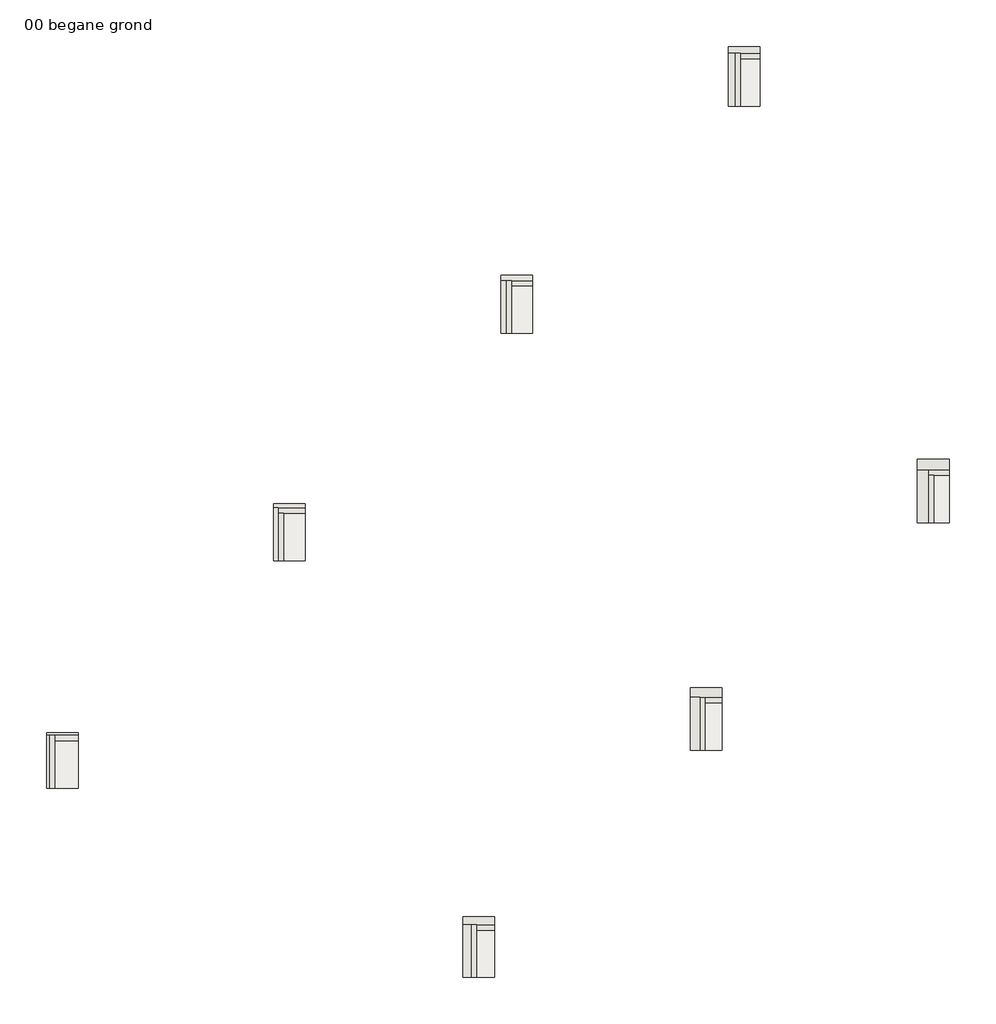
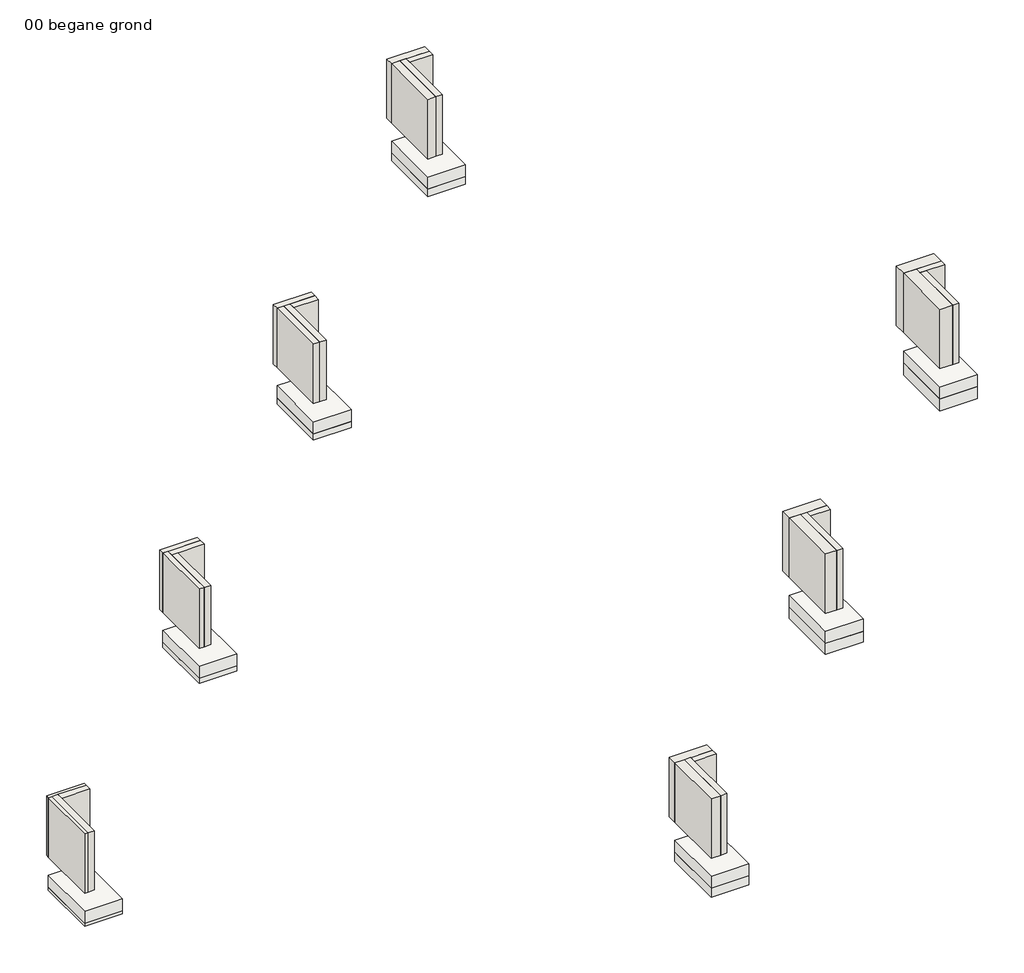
# One storey: 28 walls, 14 slabs.
"""IFC4 building model written with IfcOpenShell, lengths in millimetres."""

import ifcopenshell
import ifcopenshell.guid

model = None  # the IFC model being written
_history = None  # IfcOwnerHistory: only IFC2X3 demands one
_inside = {}  # id of a spatial element -> (the spatial element, [elements in it])
_under = {}  # id of a project, library or spatial element -> (it, [spatial elements below it])
_declared = {}  # id of a project -> (the project, [libraries it declares])
_typed = {}  # id of a type object -> (the type object, [elements of that type])
_made_of = {}  # id of a material, layer set ... -> (it, [elements and type objects made of it])


def new_model(schema):
    """Start an empty IFC model of exactly this schema.

    Asked for "IFC4X3", IfcOpenShell would pick the latest addendum, in which some entities
    have other attributes; the version numbers below select the first issue.
    IFC2X3 requires an IfcOwnerHistory on every rooted entity: one is made here for all.
    """
    global model, _history
    if schema == "IFC4X3":
        model = ifcopenshell.file(schema_version=(4, 3, 0, 0))
    else:
        model = ifcopenshell.file(schema=schema)
    _inside.clear()
    _under.clear()
    _declared.clear()
    _typed.clear()
    _made_of.clear()
    _history = None
    if model.schema == "IFC2X3":
        org = make("IfcOrganization", Name="unknown")
        user = make(
            "IfcPersonAndOrganization",
            ThePerson=make("IfcPerson", FamilyName="unknown"),
            TheOrganization=org,
        )
        app = make(
            "IfcApplication",
            ApplicationDeveloper=org,
            Version="unknown",
            ApplicationFullName="unknown",
            ApplicationIdentifier="unknown",
        )
        _history = make(
            "IfcOwnerHistory",
            OwningUser=user,
            OwningApplication=app,
            ChangeAction="ADDED",
            CreationDate=0,
        )
    return model


def make(cls, **values):
    """One entity of the class cls with the attributes given. An attribute that is None is left unset."""
    return model.create_entity(
        cls, **{name: value for name, value in values.items() if value is not None}
    )


def rooted(cls, **values):
    """An entity with a GlobalId (a new one), such as an element, a storey or a relation."""
    return make(cls, GlobalId=ifcopenshell.guid.new(), OwnerHistory=_history, **values)


def si_unit(unit_type, name, prefix=None):
    """IfcSIUnit, for example si_unit("LENGTHUNIT", "METRE", prefix="MILLI")."""
    return make("IfcSIUnit", UnitType=unit_type, Prefix=prefix, Name=name)


def assignment(units):
    """IfcUnitAssignment: the units of a project."""
    return None if units is None else make("IfcUnitAssignment", Units=units)


def point(xyz):
    """IfcCartesianPoint."""
    return None if xyz is None else make("IfcCartesianPoint", Coordinates=xyz)


def direction(xyz):
    """IfcDirection."""
    return None if xyz is None else make("IfcDirection", DirectionRatios=xyz)


def frame(location, z_axis=None, x_axis=None):
    """IfcAxis2Placement3D, a coordinate frame: its origin and axes. An axis left out is left unset."""
    return make(
        "IfcAxis2Placement3D",
        Location=point(location),
        Axis=direction(z_axis),
        RefDirection=direction(x_axis),
    )


def origin():
    """The frame at (0, 0, 0) with its axes left unset."""
    return frame((0.0, 0.0, 0.0))


def origin_with_axes():
    """The frame at (0, 0, 0) with the z axis (0, 0, 1) and the x axis (1, 0, 0) written out."""
    return frame((0.0, 0.0, 0.0), z_axis=(0.0, 0.0, 1.0), x_axis=(1.0, 0.0, 0.0))


def place(relative_to, where):
    """IfcLocalPlacement: puts the frame where relative to a parent placement (None: the world)."""
    return make(
        "IfcLocalPlacement", PlacementRelTo=relative_to, RelativePlacement=where
    )


def context(
    kind, dimensions, precision=None, world=None, true_north=None, identifier=None
):
    """IfcGeometricRepresentationContext, for example the 3D "Model" context."""
    return make(
        "IfcGeometricRepresentationContext",
        ContextIdentifier=identifier,
        ContextType=kind,
        CoordinateSpaceDimension=dimensions,
        Precision=precision,
        WorldCoordinateSystem=world,
        TrueNorth=true_north,
    )


def project(units=None, contexts=None):
    """IfcProject with its units and contexts."""
    return rooted(
        "IfcProject",
        Name="project",
        RepresentationContexts=contexts,
        UnitsInContext=assignment(units),
    )


def spatial(cls, under=None, at=None, **own):
    """A site, building, storey or space (cls), placed at a placement, below another one or the project."""
    s = rooted(cls, ObjectPlacement=at, **own)
    if under is not None:
        _under.setdefault(under.id(), (under, []))[1].append(s)
    return s


def polyline(points):
    """IfcPolyline through the points."""
    return make("IfcPolyline", Points=[point(p) for p in points])


def outline(outer, holes=None, kind="AREA"):
    """IfcArbitraryClosedProfileDef: a profile drawn as a closed curve; with holes, ...WithVoids."""
    if holes is None:
        return make("IfcArbitraryClosedProfileDef", ProfileType=kind, OuterCurve=outer)
    return make(
        "IfcArbitraryProfileDefWithVoids",
        ProfileType=kind,
        OuterCurve=outer,
        InnerCurves=holes,
    )


def extrude(swept, where, along, depth):
    """IfcExtrudedAreaSolid: the profile swept, set in the frame where, extruded along a direction by depth."""
    return make(
        "IfcExtrudedAreaSolid",
        SweptArea=swept,
        Position=where,
        ExtrudedDirection=direction(along),
        Depth=depth,
    )


def faces_of(points, faces, orient=None, outer=None):
    """IfcFace entities. A face is a list of loops; a loop is a list of indices into points, from 0.

    orient and outer hold one flag for each loop. By default every Orientation is true, the
    first loop of a face is its IfcFaceOuterBound and the others are IfcFaceBound.
    """
    made = []
    for i, loops in enumerate(faces):
        bounds = []
        for j, loop in enumerate(loops):
            is_outer = j == 0 if outer is None else outer[i][j]
            bounds.append(
                make(
                    "IfcFaceOuterBound" if is_outer else "IfcFaceBound",
                    Bound=make("IfcPolyLoop", Polygon=[points[k] for k in loop]),
                    Orientation=True if orient is None else orient[i][j],
                )
            )
        made.append(make("IfcFace", Bounds=bounds))
    return made


def faceted_brep(points, faces, orient=None, outer=None, voids=None):
    """IfcFacetedBrep: a solid bounded by flat faces; with voids (closed shells), ...WithVoids."""
    shared = [point(p) for p in points]
    hull = make("IfcClosedShell", CfsFaces=faces_of(shared, faces, orient, outer))
    if voids is None:
        return make("IfcFacetedBrep", Outer=hull)
    return make(
        "IfcFacetedBrepWithVoids",
        Outer=hull,
        Voids=[
            make(cls, CfsFaces=faces_of(shared, fs, o, b)) for cls, fs, o, b in voids
        ],
    )


def shape(context_of_items, identifier, shape_type, items):
    """IfcShapeRepresentation: the items that make up one representation, for example the "Body"."""
    return make(
        "IfcShapeRepresentation",
        ContextOfItems=context_of_items,
        RepresentationIdentifier=identifier,
        RepresentationType=shape_type,
        Items=items,
    )


def made_of(thing, what):
    """Note that an element or type object is made of a material, layer set ...; save() writes the relation."""
    if what is not None:
        _made_of.setdefault(what.id(), (what, []))[1].append(thing)
    return thing


def element(
    cls,
    number,
    at=None,
    inside=None,
    cuts=None,
    type_object=None,
    material=None,
    context=None,
    identifier="Body",
    shape_type=None,
    held_by="IfcProductDefinitionShape",
    body=None,
    shapes=None,
    **own,
):
    """One element of the class cls, such as IfcWall. Its Tag is "e" and its number.

    at: its placement. inside: the storey or other place that contains it. cuts: it is an
    opening in that element (IfcRelVoidsElement). A single representation is given by context,
    identifier, shape_type and body (its items); several are given by shapes. held_by: the class
    of the entity that holds the representations. save() writes the other relations.
    """
    e = rooted(cls, Tag="e%d" % number, ObjectPlacement=at, **own)
    if body is not None:
        shapes = [shape(context, identifier, shape_type, body)]
    if shapes is not None:
        e.Representation = make(held_by, Representations=shapes)
    if inside is not None:
        _inside.setdefault(inside.id(), (inside, []))[1].append(e)
    if cuts is not None:
        rooted(
            "IfcRelVoidsElement", RelatingBuildingElement=cuts, RelatedOpeningElement=e
        )
    if type_object is not None:
        _typed.setdefault(type_object.id(), (type_object, []))[1].append(e)
    return made_of(e, material)


def aggregate(whole, parts):
    """IfcRelAggregates: a whole, such as a stair, and the parts it consists of."""
    return rooted("IfcRelAggregates", RelatingObject=whole, RelatedObjects=parts)


def save(model, path):
    """Write the relations noted so far, then the file.

    IfcRelAggregates (storeys below a building ...), IfcRelContainedInSpatialStructure (elements
    in a storey), IfcRelDefinesByType, IfcRelAssociatesMaterial and IfcRelDeclares: one each for
    every whole, place, type object, material and project.
    """
    for whole, parts in _under.values():
        aggregate(whole, parts)
    for where, things in _inside.values():
        rooted(
            "IfcRelContainedInSpatialStructure",
            RelatedElements=things,
            RelatingStructure=where,
        )
    for kind, things in _typed.values():
        rooted("IfcRelDefinesByType", RelatedObjects=things, RelatingType=kind)
    for what, things in _made_of.values():
        rooted("IfcRelAssociatesMaterial", RelatedObjects=things, RelatingMaterial=what)
    for by, libraries in _declared.values():
        rooted("IfcRelDeclares", RelatingContext=by, RelatedDefinitions=libraries)
    model.write(path)


model = new_model("IFC4")

# Units and contexts
model_context = context("Model", 3, world=origin())
ifc_project = project(units=[si_unit("LENGTHUNIT", "METRE", prefix="MILLI")], contexts=[model_context])

# Site, building, storey
site = spatial("IfcSite", under=ifc_project)
building = spatial("IfcBuilding", under=site)
storey = spatial("IfcBuildingStorey", under=building, Name="00 begane grond", Elevation=0.0)

# Slabs
placement = place(None, origin())
element("IfcSlab", 1, ObjectType="NLRS_23_FL_Heraklith Heratekta+ 80x985x590mm", at=placement, inside=storey, context=model_context, shape_type="SweptSolid", body=[
    extrude(outline(polyline([(4832.6406871, 4242.6406871), (4242.6406871, 4242.6406871), (4242.6406871, 5227.6406871), (4832.6406871, 5227.6406871), (4832.6406871, 4242.6406871)])), frame((0.0, 0.0, -580.0), z_axis=(0.0, 0.0, 1.0), x_axis=(1.0, 0.0, 0.0)), (0.0, 0.0, 1.0), 80.0),
])
element("IfcSlab", 2, ObjectType="NLRS_23_FL_Heraklith Heratekta+ 100x985x590mm", at=placement, inside=storey, context=model_context, shape_type="SweptSolid", body=[
    extrude(outline(polyline([(9075.2813742, 8485.2813742), (8485.2813742, 8485.2813742), (8485.2813742, 9470.2813742), (9075.2813742, 9470.2813742), (9075.2813742, 8485.2813742)])), frame((0.0, 0.0, -600.0), z_axis=(0.0, 0.0, 1.0), x_axis=(1.0, 0.0, 0.0)), (0.0, 0.0, 1.0), 100.0),
])
element("IfcSlab", 3, ObjectType="NLRS_23_FL_Heraklith Heratekta+ 125x985x590mm", at=placement, inside=storey, context=model_context, shape_type="SweptSolid", body=[
    extrude(outline(polyline([(13317.9220614, 12727.9220614), (12727.9220614, 12727.9220614), (12727.9220614, 13712.9220614), (13317.9220614, 13712.9220614), (13317.9220614, 12727.9220614)])), frame((0.0, 0.0, -625.0), z_axis=(0.0, 0.0, 1.0), x_axis=(1.0, 0.0, 0.0)), (0.0, 0.0, 1.0), 125.0),
])
element("IfcSlab", 4, ObjectType="NLRS_23_FL_Heraklith Heratekta+ 150x985x590mm", at=placement, inside=storey, context=model_context, shape_type="SweptSolid", body=[
    extrude(outline(polyline([(8368.1745931, -3535.5339059), (7778.1745931, -3535.5339059), (7778.1745931, -2550.5339059), (8368.1745931, -2550.5339059), (8368.1745931, -3535.5339059)])), frame((0.0, 0.0, -650.0), z_axis=(0.0, 0.0, 1.0), x_axis=(1.0, 0.0, 0.0)), (0.0, 0.0, 1.0), 150.0),
])
element("IfcSlab", 5, ObjectType="NLRS_23_FL_Heraklith Heratekta+ 175x985x590mm", at=placement, inside=storey, context=model_context, shape_type="SweptSolid", body=[
    extrude(outline(polyline([(12610.8152802, 707.1067812), (12020.8152802, 707.1067812), (12020.8152802, 1692.1067812), (12610.8152802, 1692.1067812), (12610.8152802, 707.1067812)])), frame((0.0, 0.0, -675.0), z_axis=(0.0, 0.0, 1.0), x_axis=(1.0, 0.0, 0.0)), (0.0, 0.0, 1.0), 175.0),
])
element("IfcSlab", 6, ObjectType="NLRS_23_FL_Heraklith Heratekta+ 200x985x590mm", at=placement, inside=storey, context=model_context, shape_type="SweptSolid", body=[
    extrude(outline(polyline([(16853.4559673, 4949.7474683), (16263.4559673, 4949.7474683), (16263.4559673, 5934.7474683), (16853.4559673, 5934.7474683), (16853.4559673, 4949.7474683)])), frame((0.0, 0.0, -700.0), z_axis=(0.0, 0.0, 1.0), x_axis=(1.0, 0.0, 0.0)), (0.0, 0.0, 1.0), 200.0),
])
element("IfcSlab", 7, ObjectType="NLRS_23_FL_Heraklith Heratekta+ 50x985x590mm", at=placement, inside=storey, context=model_context, shape_type="SweptSolid", body=[
    extrude(outline(polyline([(590.0, 0.0195534), (0.0, 0.0195534), (0.0, 985.0195534), (590.0, 985.0195534), (590.0, 0.0195534)])), frame((0.0, 0.0, -550.0), z_axis=(0.0, 0.0, 1.0), x_axis=(1.0, 0.0, 0.0)), (0.0, 0.0, 1.0), 50.0),
])
element("IfcSlab", 8, ObjectType="Generic 200mm", at=placement, inside=storey, context=model_context, shape_type="SweptSolid", body=[
    extrude(outline(polyline([(590.0, 985.0), (590.0, 0.0), (0.0, 0.0), (0.0, 985.0), (590.0, 985.0)])), frame((0.0, 0.0, -500.0), z_axis=(0.0, 0.0, 1.0), x_axis=(1.0, 0.0, 0.0)), (0.0, 0.0, 1.0), 200.0),
])
element("IfcSlab", 9, ObjectType="Generic 200mm", at=placement, inside=storey, context=model_context, shape_type="SweptSolid", body=[
    extrude(outline(polyline([(4832.6406871, 5227.6406871), (4832.6406871, 4242.6406871), (4242.6406871, 4242.6406871), (4242.6406871, 5227.6406871), (4832.6406871, 5227.6406871)])), frame((0.0, 0.0, -500.0), z_axis=(0.0, 0.0, 1.0), x_axis=(1.0, 0.0, 0.0)), (0.0, 0.0, 1.0), 200.0),
])
element("IfcSlab", 10, ObjectType="Generic 200mm", at=placement, inside=storey, context=model_context, shape_type="SweptSolid", body=[
    extrude(outline(polyline([(9075.2813742, 9470.2813742), (9075.2813742, 8485.2813742), (8485.2813742, 8485.2813742), (8485.2813742, 9470.2813742), (9075.2813742, 9470.2813742)])), frame((0.0, 0.0, -500.0), z_axis=(0.0, 0.0, 1.0), x_axis=(1.0, 0.0, 0.0)), (0.0, 0.0, 1.0), 200.0),
])
element("IfcSlab", 11, ObjectType="Generic 200mm", at=placement, inside=storey, context=model_context, shape_type="SweptSolid", body=[
    extrude(outline(polyline([(13317.9220614, 13712.9220614), (13317.9220614, 12727.9220614), (12727.9220614, 12727.9220614), (12727.9220614, 13712.9220614), (13317.9220614, 13712.9220614)])), frame((0.0, 0.0, -500.0), z_axis=(0.0, 0.0, 1.0), x_axis=(1.0, 0.0, 0.0)), (0.0, 0.0, 1.0), 200.0),
])
element("IfcSlab", 12, ObjectType="Generic 200mm", at=placement, inside=storey, context=model_context, shape_type="SweptSolid", body=[
    extrude(outline(polyline([(16853.4559673, 5934.7474683), (16853.4559673, 4949.7474683), (16263.4559673, 4949.7474683), (16263.4559673, 5934.7474683), (16853.4559673, 5934.7474683)])), frame((0.0, 0.0, -500.0), z_axis=(0.0, 0.0, 1.0), x_axis=(1.0, 0.0, 0.0)), (0.0, 0.0, 1.0), 200.0),
])
element("IfcSlab", 13, ObjectType="Generic 200mm", at=placement, inside=storey, context=model_context, shape_type="SweptSolid", body=[
    extrude(outline(polyline([(12610.8152802, 1692.1067812), (12610.8152802, 707.1067812), (12020.8152802, 707.1067812), (12020.8152802, 1692.1067812), (12610.8152802, 1692.1067812)])), frame((0.0, 0.0, -500.0), z_axis=(0.0, 0.0, 1.0), x_axis=(1.0, 0.0, 0.0)), (0.0, 0.0, 1.0), 200.0),
])
element("IfcSlab", 14, ObjectType="Generic 200mm", at=placement, inside=storey, context=model_context, shape_type="SweptSolid", body=[
    extrude(outline(polyline([(8368.1745931, -2550.5339059), (8368.1745931, -3535.5339059), (7778.1745931, -3535.5339059), (7778.1745931, -2550.5339059), (8368.1745931, -2550.5339059)])), frame((0.0, 0.0, -500.0), z_axis=(0.0, 0.0, 1.0), x_axis=(1.0, 0.0, 0.0)), (0.0, 0.0, 1.0), 200.0),
])

# Walls
element("IfcWall", 15, ObjectType="NLRS_42_WA_Heraklith Heratekta+ 50x985x590mm", at=placement, inside=storey, context=model_context, shape_type="SweptSolid", body=[
    extrude(outline(polyline([(50.0, 985.0), (50.0, 0.0), (0.0, 0.0), (0.0, 985.0), (50.0, 985.0)])), origin_with_axes(), (0.0, 0.0, 1.0), 985.0),
])
element("IfcWall", 16, ObjectType="NLRS_41_WA_Heraklith Heratekta+ 50x985x590mm", at=placement, inside=storey, context=model_context, shape_type="Brep", body=[
    faceted_brep([(590.0, 1035.0, 0.0), (0.0, 1035.0, 0.0), (0.0, 1035.0, 985.0), (590.0, 1035.0, 985.0), (590.0, 985.0, 0.0), (590.0, 985.0, 985.0), (50.0, 985.0, 985.0), (0.0, 985.0, 985.0), (0.0, 985.0, 0.0), (50.0, 985.0, 0.0)], [[[0, 1, 2, 3]], [[4, 5, 6, 7, 8, 9]], [[1, 0, 4, 9, 8]], [[3, 2, 7, 6, 5]], [[0, 3, 5, 4]], [[2, 1, 8, 7]]]),
])
element("IfcWall", 17, ObjectType="NLRS_42_WA_Heraklith Heratekta+ 80x985x590mm", at=placement, inside=storey, context=model_context, shape_type="SweptSolid", body=[
    extrude(outline(polyline([(4322.6406871, 5227.6406871), (4322.6406871, 4242.6406871), (4242.6406871, 4242.6406871), (4242.6406871, 5227.6406871), (4322.6406871, 5227.6406871)])), origin_with_axes(), (0.0, 0.0, 1.0), 985.0),
])
element("IfcWall", 18, ObjectType="NLRS_41_WA_Heraklith Heratekta+ 80x985x590mm", at=placement, inside=storey, context=model_context, shape_type="Brep", body=[
    faceted_brep([(4832.6406871, 5307.6406871, 0.0), (4242.6406871, 5307.6406871, 0.0), (4242.6406871, 5307.6406871, 985.0), (4832.6406871, 5307.6406871, 985.0), (4832.6406871, 5227.6406871, 0.0), (4832.6406871, 5227.6406871, 985.0), (4322.6406871, 5227.6406871, 985.0), (4242.6406871, 5227.6406871, 985.0), (4242.6406871, 5227.6406871, 0.0), (4322.6406871, 5227.6406871, 0.0)], [[[0, 1, 2, 3]], [[4, 5, 6, 7, 8, 9]], [[1, 0, 4, 9, 8]], [[3, 2, 7, 6, 5]], [[0, 3, 5, 4]], [[2, 1, 8, 7]]]),
])
element("IfcWall", 19, ObjectType="NLRS_42_WA_Heraklith Heratekta+ 100x985x590mm", at=placement, inside=storey, context=model_context, shape_type="SweptSolid", body=[
    extrude(outline(polyline([(8585.2813742, 9470.2813742), (8585.2813742, 8485.2813742), (8485.2813742, 8485.2813742), (8485.2813742, 9470.2813742), (8585.2813742, 9470.2813742)])), origin_with_axes(), (0.0, 0.0, 1.0), 985.0),
])
element("IfcWall", 20, ObjectType="NLRS_41_WA_Heraklith Heratekta+ 100x985x590mm", at=placement, inside=storey, context=model_context, shape_type="Brep", body=[
    faceted_brep([(9075.2813742, 9570.2813742, 0.0), (8485.2813742, 9570.2813742, 0.0), (8485.2813742, 9570.2813742, 985.0), (9075.2813742, 9570.2813742, 985.0), (9075.2813742, 9470.2813742, 0.0), (9075.2813742, 9470.2813742, 985.0), (8585.2813742, 9470.2813742, 985.0), (8485.2813742, 9470.2813742, 985.0), (8485.2813742, 9470.2813742, 0.0), (8585.2813742, 9470.2813742, 0.0)], [[[0, 1, 2, 3]], [[4, 5, 6, 7, 8, 9]], [[1, 0, 4, 9, 8]], [[3, 2, 7, 6, 5]], [[0, 3, 5, 4]], [[2, 1, 8, 7]]]),
])
element("IfcWall", 21, ObjectType="NLRS_42_WA_Heraklith Heratekta+ 125x985x590mm", at=placement, inside=storey, context=model_context, shape_type="SweptSolid", body=[
    extrude(outline(polyline([(12852.9220614, 13712.9220614), (12852.9220614, 12727.9220614), (12727.9220614, 12727.9220614), (12727.9220614, 13712.9220614), (12852.9220614, 13712.9220614)])), origin_with_axes(), (0.0, 0.0, 1.0), 985.0),
])
element("IfcWall", 22, ObjectType="NLRS_41_WA_Heraklith Heratekta+ 125x985x590mm", at=placement, inside=storey, context=model_context, shape_type="Brep", body=[
    faceted_brep([(13317.9220614, 13837.9220614, 0.0), (12727.9220614, 13837.9220614, 0.0), (12727.9220614, 13837.9220614, 985.0), (13317.9220614, 13837.9220614, 985.0), (13317.9220614, 13712.9220614, 0.0), (13317.9220614, 13712.9220614, 985.0), (12852.9220614, 13712.9220614, 985.0), (12727.9220614, 13712.9220614, 985.0), (12727.9220614, 13712.9220614, 0.0), (12852.9220614, 13712.9220614, 0.0)], [[[0, 1, 2, 3]], [[4, 5, 6, 7, 8, 9]], [[1, 0, 4, 9, 8]], [[3, 2, 7, 6, 5]], [[0, 3, 5, 4]], [[2, 1, 8, 7]]]),
])
element("IfcWall", 23, ObjectType="NLRS_42_WA_Heraklith Heratekta+ 150x985x590mm", at=placement, inside=storey, context=model_context, shape_type="SweptSolid", body=[
    extrude(outline(polyline([(7928.1745931, -2550.5339059), (7928.1745931, -3535.5339059), (7778.1745931, -3535.5339059), (7778.1745931, -2550.5339059), (7928.1745931, -2550.5339059)])), origin_with_axes(), (0.0, 0.0, 1.0), 985.0),
])
element("IfcWall", 24, ObjectType="NLRS_41_WA_Heraklith Heratekta+ 150x985x590mm", at=placement, inside=storey, context=model_context, shape_type="Brep", body=[
    faceted_brep([(8368.1745931, -2400.5339059, 0.0), (7778.1745931, -2400.5339059, 0.0), (7778.1745931, -2400.5339059, 985.0), (8368.1745931, -2400.5339059, 985.0), (8368.1745931, -2550.5339059, 0.0), (8368.1745931, -2550.5339059, 985.0), (7928.1745931, -2550.5339059, 985.0), (7778.1745931, -2550.5339059, 985.0), (7778.1745931, -2550.5339059, 0.0), (7928.1745931, -2550.5339059, 0.0)], [[[0, 1, 2, 3]], [[4, 5, 6, 7, 8, 9]], [[1, 0, 4, 9, 8]], [[3, 2, 7, 6, 5]], [[0, 3, 5, 4]], [[2, 1, 8, 7]]]),
])
element("IfcWall", 25, ObjectType="NLRS_42_WA_Heraklith Heratekta+ 175x985x590mm", at=placement, inside=storey, context=model_context, shape_type="SweptSolid", body=[
    extrude(outline(polyline([(12195.8152802, 1692.1067812), (12195.8152802, 707.1067812), (12020.8152802, 707.1067812), (12020.8152802, 1692.1067812), (12195.8152802, 1692.1067812)])), origin_with_axes(), (0.0, 0.0, 1.0), 985.0),
])
element("IfcWall", 26, ObjectType="NLRS_41_WA_Heraklith Heratekta+ 175x985x590mm", at=placement, inside=storey, context=model_context, shape_type="Brep", body=[
    faceted_brep([(12610.8152802, 1867.1067812, 0.0), (12020.8152802, 1867.1067812, 0.0), (12020.8152802, 1867.1067812, 985.0), (12610.8152802, 1867.1067812, 985.0), (12610.8152802, 1692.1067812, 0.0), (12610.8152802, 1692.1067812, 985.0), (12195.8152802, 1692.1067812, 985.0), (12020.8152802, 1692.1067812, 985.0), (12020.8152802, 1692.1067812, 0.0), (12195.8152802, 1692.1067812, 0.0)], [[[0, 1, 2, 3]], [[4, 5, 6, 7, 8, 9]], [[1, 0, 4, 9, 8]], [[3, 2, 7, 6, 5]], [[0, 3, 5, 4]], [[2, 1, 8, 7]]]),
])
element("IfcWall", 27, ObjectType="NLRS_42_WA_Heraklith Heratekta+ 200x985x590mm", at=placement, inside=storey, context=model_context, shape_type="SweptSolid", body=[
    extrude(outline(polyline([(16463.4559673, 5934.7474683), (16463.4559673, 4949.7474683), (16263.4559673, 4949.7474683), (16263.4559673, 5934.7474683), (16463.4559673, 5934.7474683)])), origin_with_axes(), (0.0, 0.0, 1.0), 985.0),
])
element("IfcWall", 28, ObjectType="NLRS_41_WA_Heraklith Heratekta+ 200x985x590mm", at=placement, inside=storey, context=model_context, shape_type="Brep", body=[
    faceted_brep([(16853.4559673, 6134.7474683, 0.0), (16263.4559673, 6134.7474683, 0.0), (16263.4559673, 6134.7474683, 985.0), (16853.4559673, 6134.7474683, 985.0), (16853.4559673, 5934.7474683, 0.0), (16853.4559673, 5934.7474683, 985.0), (16463.4559673, 5934.7474683, 985.0), (16263.4559673, 5934.7474683, 985.0), (16263.4559673, 5934.7474683, 0.0), (16463.4559673, 5934.7474683, 0.0)], [[[0, 1, 2, 3]], [[4, 5, 6, 7, 8, 9]], [[1, 0, 4, 9, 8]], [[3, 2, 7, 6, 5]], [[0, 3, 5, 4]], [[2, 1, 8, 7]]]),
])
element("IfcWall", 29, ObjectType="Generic_100mm", at=placement, inside=storey, context=model_context, shape_type="Brep", body=[
    faceted_brep([(150.0, 0.0, 0.0), (150.0, 885.0, 0.0), (150.0, 985.0, 0.0), (150.0, 985.0, 985.0), (150.0, 885.0, 985.0), (150.0, 0.0, 985.0), (50.0, 0.0, 0.0), (50.0, 0.0, 985.0), (50.0, 985.0, 985.0), (50.0, 985.0, 0.0)], [[[0, 1, 2, 3, 4, 5]], [[6, 7, 8, 9]], [[2, 1, 0, 6, 9]], [[5, 4, 3, 8, 7]], [[0, 5, 7, 6]], [[3, 2, 9, 8]]]),
])
element("IfcWall", 30, ObjectType="Generic_100mm", at=placement, inside=storey, context=model_context, shape_type="SweptSolid", body=[
    extrude(outline(polyline([(150.0, 985.0), (590.0, 985.0), (590.0, 885.0), (150.0, 885.0), (150.0, 985.0)])), origin_with_axes(), (0.0, 0.0, 1.0), 985.0),
])
element("IfcWall", 31, ObjectType="Generic_100mm", at=placement, inside=storey, context=model_context, shape_type="SweptSolid", body=[
    extrude(outline(polyline([(4422.6406871, 5127.6406871), (4422.6406871, 4242.6406871), (4322.6406871, 4242.6406871), (4322.6406871, 5127.6406871), (4422.6406871, 5127.6406871)])), origin_with_axes(), (0.0, 0.0, 1.0), 985.0),
])
element("IfcWall", 32, ObjectType="Generic_100mm", at=placement, inside=storey, context=model_context, shape_type="Brep", body=[
    faceted_brep([(4832.6406871, 5227.6406871, 0.0), (4322.6406871, 5227.6406871, 0.0), (4322.6406871, 5227.6406871, 985.0), (4832.6406871, 5227.6406871, 985.0), (4832.6406871, 5127.6406871, 0.0), (4832.6406871, 5127.6406871, 985.0), (4422.6406871, 5127.6406871, 985.0), (4322.6406871, 5127.6406871, 985.0), (4322.6406871, 5127.6406871, 0.0), (4422.6406871, 5127.6406871, 0.0)], [[[0, 1, 2, 3]], [[4, 5, 6, 7, 8, 9]], [[1, 0, 4, 9, 8]], [[3, 2, 7, 6, 5]], [[0, 3, 5, 4]], [[2, 1, 8, 7]]]),
])
element("IfcWall", 33, ObjectType="Generic_100mm", at=placement, inside=storey, context=model_context, shape_type="Brep", body=[
    faceted_brep([(8685.2813742, 8485.2813742, 0.0), (8685.2813742, 9370.2813742, 0.0), (8685.2813742, 9470.2813742, 0.0), (8685.2813742, 9470.2813742, 985.0), (8685.2813742, 9370.2813742, 985.0), (8685.2813742, 8485.2813742, 985.0), (8585.2813742, 8485.2813742, 0.0), (8585.2813742, 8485.2813742, 985.0), (8585.2813742, 9470.2813742, 985.0), (8585.2813742, 9470.2813742, 0.0)], [[[0, 1, 2, 3, 4, 5]], [[6, 7, 8, 9]], [[2, 1, 0, 6, 9]], [[5, 4, 3, 8, 7]], [[0, 5, 7, 6]], [[3, 2, 9, 8]]]),
])
element("IfcWall", 34, ObjectType="Generic_100mm", at=placement, inside=storey, context=model_context, shape_type="SweptSolid", body=[
    extrude(outline(polyline([(8685.2813742, 9470.2813742), (9075.2813742, 9470.2813742), (9075.2813742, 9370.2813742), (8685.2813742, 9370.2813742), (8685.2813742, 9470.2813742)])), origin_with_axes(), (0.0, 0.0, 1.0), 985.0),
])
element("IfcWall", 35, ObjectType="Generic_100mm", at=placement, inside=storey, context=model_context, shape_type="Brep", body=[
    faceted_brep([(12952.9220614, 12727.9220614, 0.0), (12952.9220614, 13612.9220614, 0.0), (12952.9220614, 13712.9220614, 0.0), (12952.9220614, 13712.9220614, 985.0), (12952.9220614, 13612.9220614, 985.0), (12952.9220614, 12727.9220614, 985.0), (12852.9220614, 12727.9220614, 0.0), (12852.9220614, 12727.9220614, 985.0), (12852.9220614, 13712.9220614, 985.0), (12852.9220614, 13712.9220614, 0.0)], [[[0, 1, 2, 3, 4, 5]], [[6, 7, 8, 9]], [[2, 1, 0, 6, 9]], [[5, 4, 3, 8, 7]], [[0, 5, 7, 6]], [[3, 2, 9, 8]]]),
])
element("IfcWall", 36, ObjectType="Generic_100mm", at=placement, inside=storey, context=model_context, shape_type="SweptSolid", body=[
    extrude(outline(polyline([(12952.9220614, 13712.9220614), (13317.9220614, 13712.9220614), (13317.9220614, 13612.9220614), (12952.9220614, 13612.9220614), (12952.9220614, 13712.9220614)])), origin_with_axes(), (0.0, 0.0, 1.0), 985.0),
])
element("IfcWall", 37, ObjectType="Generic_100mm", at=placement, inside=storey, context=model_context, shape_type="SweptSolid", body=[
    extrude(outline(polyline([(16563.4559673, 5834.7474683), (16563.4559673, 4949.7474683), (16463.4559673, 4949.7474683), (16463.4559673, 5834.7474683), (16563.4559673, 5834.7474683)])), origin_with_axes(), (0.0, 0.0, 1.0), 985.0),
])
element("IfcWall", 38, ObjectType="Generic_100mm", at=placement, inside=storey, context=model_context, shape_type="Brep", body=[
    faceted_brep([(16853.4559673, 5934.7474683, 0.0), (16463.4559673, 5934.7474683, 0.0), (16463.4559673, 5934.7474683, 985.0), (16853.4559673, 5934.7474683, 985.0), (16853.4559673, 5834.7474683, 0.0), (16853.4559673, 5834.7474683, 985.0), (16563.4559673, 5834.7474683, 985.0), (16463.4559673, 5834.7474683, 985.0), (16463.4559673, 5834.7474683, 0.0), (16563.4559673, 5834.7474683, 0.0)], [[[0, 1, 2, 3]], [[4, 5, 6, 7, 8, 9]], [[1, 0, 4, 9, 8]], [[3, 2, 7, 6, 5]], [[0, 3, 5, 4]], [[2, 1, 8, 7]]]),
])
element("IfcWall", 39, ObjectType="Generic_100mm", at=placement, inside=storey, context=model_context, shape_type="Brep", body=[
    faceted_brep([(12295.8152802, 707.1067812, 0.0), (12295.8152802, 1592.1067812, 0.0), (12295.8152802, 1692.1067812, 0.0), (12295.8152802, 1692.1067812, 985.0), (12295.8152802, 1592.1067812, 985.0), (12295.8152802, 707.1067812, 985.0), (12195.8152802, 707.1067812, 0.0), (12195.8152802, 707.1067812, 985.0), (12195.8152802, 1692.1067812, 985.0), (12195.8152802, 1692.1067812, 0.0)], [[[0, 1, 2, 3, 4, 5]], [[6, 7, 8, 9]], [[2, 1, 0, 6, 9]], [[5, 4, 3, 8, 7]], [[0, 5, 7, 6]], [[3, 2, 9, 8]]]),
])
element("IfcWall", 40, ObjectType="Generic_100mm", at=placement, inside=storey, context=model_context, shape_type="SweptSolid", body=[
    extrude(outline(polyline([(12295.8152802, 1692.1067812), (12610.8152802, 1692.1067812), (12610.8152802, 1592.1067812), (12295.8152802, 1592.1067812), (12295.8152802, 1692.1067812)])), origin_with_axes(), (0.0, 0.0, 1.0), 985.0),
])
element("IfcWall", 41, ObjectType="Generic_100mm", at=placement, inside=storey, context=model_context, shape_type="Brep", body=[
    faceted_brep([(8028.1745931, -3535.5339059, 0.0), (8028.1745931, -2650.5339059, 0.0), (8028.1745931, -2550.5339059, 0.0), (8028.1745931, -2550.5339059, 985.0), (8028.1745931, -2650.5339059, 985.0), (8028.1745931, -3535.5339059, 985.0), (7928.1745931, -3535.5339059, 0.0), (7928.1745931, -3535.5339059, 985.0), (7928.1745931, -2550.5339059, 985.0), (7928.1745931, -2550.5339059, 0.0)], [[[0, 1, 2, 3, 4, 5]], [[6, 7, 8, 9]], [[2, 1, 0, 6, 9]], [[5, 4, 3, 8, 7]], [[0, 5, 7, 6]], [[3, 2, 9, 8]]]),
])
element("IfcWall", 42, ObjectType="Generic_100mm", at=placement, inside=storey, context=model_context, shape_type="SweptSolid", body=[
    extrude(outline(polyline([(8028.1745931, -2550.5339059), (8368.1745931, -2550.5339059), (8368.1745931, -2650.5339059), (8028.1745931, -2650.5339059), (8028.1745931, -2550.5339059)])), origin_with_axes(), (0.0, 0.0, 1.0), 985.0),
])

save(model, "model.ifc")
